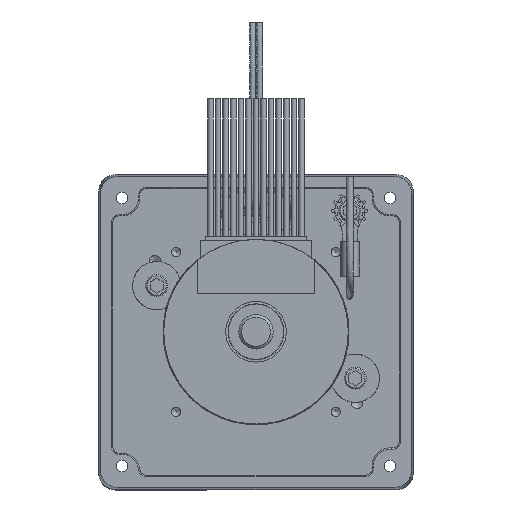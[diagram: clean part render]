
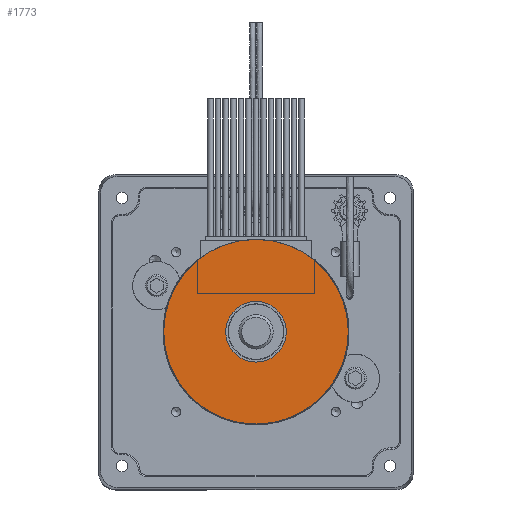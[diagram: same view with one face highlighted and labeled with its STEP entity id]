
A CAD part, top view. The second image highlights one B-rep face of the part: STEP entity #1773.
In plain terms, the highlighted planar face has unit normal (0, 0, 1).
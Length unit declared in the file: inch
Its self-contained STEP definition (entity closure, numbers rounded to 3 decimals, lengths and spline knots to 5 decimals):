
#123=CARTESIAN_POINT('',(0.22,0.,5.0545));
#124=VERTEX_POINT('',#123);
#125=CARTESIAN_POINT('',(0.0,0.0,5.0545));
#126=DIRECTION('',(0.0,0.0,-1.0));
#127=DIRECTION('',(-1.0,0.0,0.0));
#128=AXIS2_PLACEMENT_3D('',#125,#126,#127);
#129=CIRCLE('',#128,0.22);
#130=EDGE_CURVE('',#124,#124,#129,.T.);
#1738=CARTESIAN_POINT('',(0.67,0.,5.0545));
#1739=VERTEX_POINT('',#1738);
#1740=CARTESIAN_POINT('',(0.0,0.0,5.0545));
#1741=DIRECTION('',(0.0,0.0,-1.0));
#1742=DIRECTION('',(-1.0,0.0,0.0));
#1743=AXIS2_PLACEMENT_3D('',#1740,#1741,#1742);
#1744=CIRCLE('',#1743,0.67);
#1745=EDGE_CURVE('',#1739,#1739,#1744,.T.);
#1762=CARTESIAN_POINT('',(0.0,0.0,5.0545));
#1763=DIRECTION('',(0.0,0.0,-1.0));
#1764=DIRECTION('',(-1.0,0.0,0.0));
#1765=AXIS2_PLACEMENT_3D('',#1762,#1763,#1764);
#1766=PLANE('',#1765);
#1767=ORIENTED_EDGE('',*,*,#1745,.F.);
#1768=EDGE_LOOP('',(#1767));
#1769=FACE_OUTER_BOUND('',#1768,.T.);
#1770=ORIENTED_EDGE('',*,*,#130,.T.);
#1771=EDGE_LOOP('',(#1770));
#1772=FACE_BOUND('',#1771,.T.);
#1773=ADVANCED_FACE('',(#1769,#1772),#1766,.F.);
